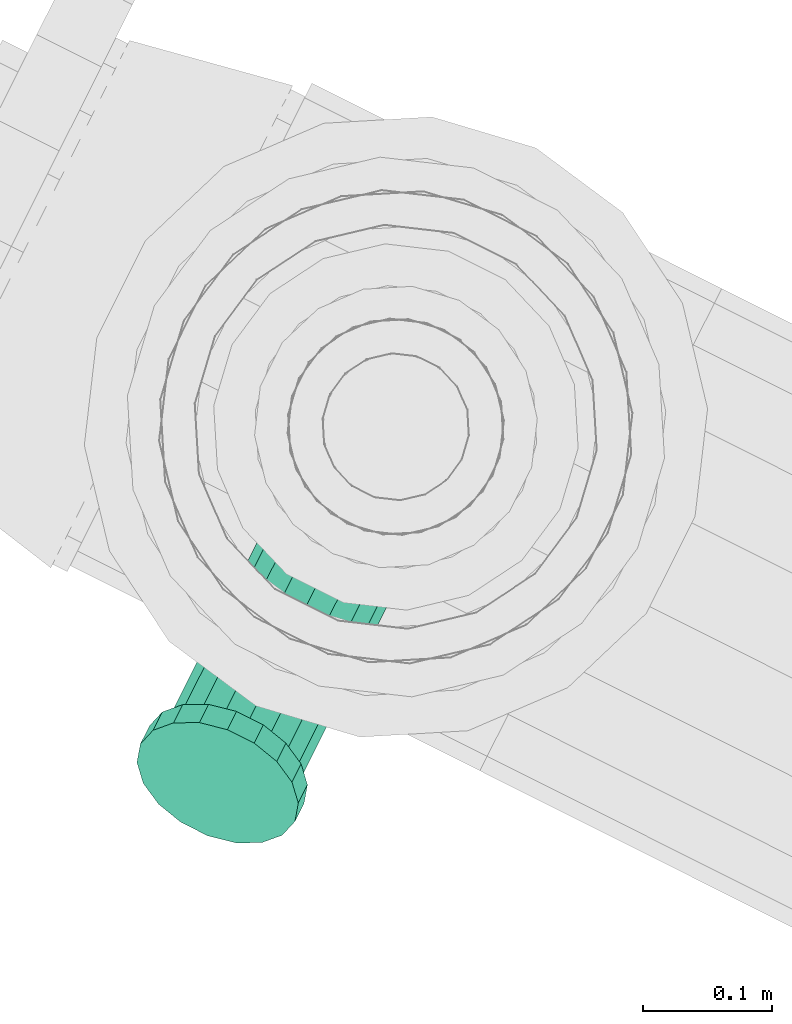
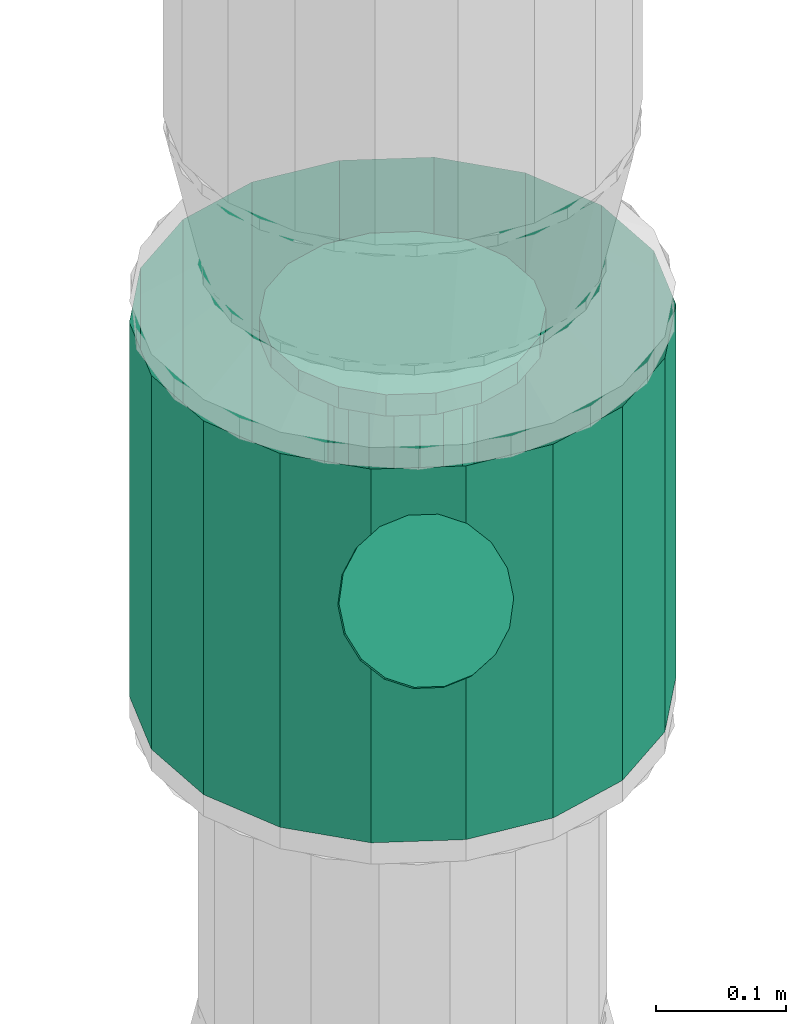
# One storey, part 70 of 152: 1 distribution control element.
"""IFC2X3 building model written with IfcOpenShell, lengths in metres."""

from ifc_helpers import new_model, si_unit, derived_unit, direction, frame, origin, place, context, subcontext, project, spatial, face_set, surface_model, source, transform, mapped, material, type_object, type_shapes, element, save


model = new_model("IFC2X3")

# Units and contexts
model_context = context("Model", 3, precision=5.2338327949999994e-05, world=origin(), true_north=direction((0.0, 1.0)))
body_context = subcontext(model_context, "Body", "Model", "MODEL_VIEW")
ifc_project = project(units=[si_unit("LENGTHUNIT", "METRE"), si_unit("AREAUNIT", "SQUARE_METRE"), si_unit("VOLUMEUNIT", "CUBIC_METRE"), si_unit("MASSUNIT", "GRAM", prefix="KILO"), si_unit("PLANEANGLEUNIT", "RADIAN"), derived_unit("THERMALTRANSMITTANCEUNIT", [(si_unit("MASSUNIT", "GRAM", prefix="KILO"), 1), (si_unit("THERMODYNAMICTEMPERATUREUNIT", "KELVIN"), -1), (si_unit("TIMEUNIT", "SECOND"), -3)])], contexts=[model_context])

# Site, building, storey
site_placement = place(None, frame((0.0, 0.0, 0.0), z_axis=(0.0, 0.0, 1.0), x_axis=(0.8939966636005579, -0.4480736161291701, 0.0)))
site = spatial("IfcSite", under=ifc_project, at=site_placement, Name="Default", CompositionType="ELEMENT")
building_placement = place(site_placement, origin())
building = spatial("IfcBuilding", under=site, at=building_placement, CompositionType="ELEMENT")
storey_placement = place(building_placement, frame((0.0, 0.0, 2.7499999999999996)))
storey = spatial("IfcBuildingStorey", under=building, at=storey_placement, Name="1. Obergeschoss", CompositionType="ELEMENT", Elevation=2.7499999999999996)

# Distribution control element
ifc_material = material(Name="IfcSurfaceStyle #1741")
distribution_element_type = type_object("IfcDistributionElementType", Name="Zählerpaßstück 319218:Zählerpaßstück 319218", material=ifc_material)
shared_shape = source(origin(), body_context, "Body", "SurfaceModel", [
    surface_model("IfcFaceBasedSurfaceModel", [(23.084853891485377, 8.402565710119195, 3.6892878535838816), (23.06530744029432, 8.40601227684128, 3.6822989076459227), (23.065307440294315, 8.199153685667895, 3.8410270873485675), (23.084853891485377, 8.201251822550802, 3.8437614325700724), (23.04811857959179, 8.415936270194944, 3.662175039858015), (23.04811857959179, 8.193112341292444, 3.8331538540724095), (23.035360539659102, 8.431140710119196, 3.631343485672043), (23.0353605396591, 8.18385646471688, 3.8210913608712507), (23.028572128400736, 8.449791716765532, 3.5935229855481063), (23.028572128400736, 8.172502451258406, 3.8062945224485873), (23.028572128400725, 8.449791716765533, 3.568505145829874), (23.028572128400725, 8.160419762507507, 3.79054805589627), (23.035360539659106, 8.431140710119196, 3.5593074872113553), (23.035360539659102, 8.149065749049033, 3.7757512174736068), (23.048118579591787, 8.415936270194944, 3.5518094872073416), (23.048118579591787, 8.139809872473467, 3.7636887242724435), (23.065307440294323, 8.406012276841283, 3.54691551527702), (23.06530744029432, 8.133768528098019, 3.7558154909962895), (23.084853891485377, 8.402565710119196, 3.5452158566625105), (23.084853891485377, 8.131670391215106, 3.753081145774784), (23.104400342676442, 8.406012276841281, 3.546915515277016), (23.104400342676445, 8.133768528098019, 3.7558154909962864), (23.12158920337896, 8.415936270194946, 3.5518094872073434), (23.121589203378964, 8.139809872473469, 3.7636887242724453), (23.134347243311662, 8.431140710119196, 3.5593074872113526), (23.13434724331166, 8.149065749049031, 3.775751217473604), (23.14113565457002, 8.449791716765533, 3.5685051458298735), (23.14113565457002, 8.160419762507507, 3.7905480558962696), (23.141135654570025, 8.449791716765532, 3.5935229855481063), (23.141135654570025, 8.172502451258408, 3.806294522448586), (23.134347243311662, 8.431140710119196, 3.6313434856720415), (23.13434724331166, 8.18385646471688, 3.82109136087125), (23.121589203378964, 8.415936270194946, 3.662175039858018), (23.121589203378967, 8.193112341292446, 3.8331538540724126), (23.104400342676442, 8.406012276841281, 3.682298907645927), (23.10440034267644, 8.199153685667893, 3.8410270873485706), (23.194853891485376, 8.459715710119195, 3.5138701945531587), (23.188220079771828, 8.49733792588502, 3.5138701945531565), (23.18822007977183, 8.49733792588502, 3.5338701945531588), (23.19485389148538, 8.459715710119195, 3.5338701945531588), (23.16911878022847, 8.530422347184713, 3.5138701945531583), (23.16911878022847, 8.530422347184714, 3.533870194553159), (23.139853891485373, 8.554978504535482, 3.513870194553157), (23.139853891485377, 8.554978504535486, 3.533870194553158), (23.10395519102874, 8.568044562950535, 3.513870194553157), (23.103955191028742, 8.568044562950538, 3.533870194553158), (23.06575259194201, 8.568044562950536, 3.5138701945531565), (23.06575259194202, 8.568044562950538, 3.5338701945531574), (23.029853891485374, 8.554978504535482, 3.513870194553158), (23.029853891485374, 8.554978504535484, 3.5338701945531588), (23.00058900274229, 8.530422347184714, 3.5138701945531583), (23.000589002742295, 8.530422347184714, 3.533870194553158), (22.981487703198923, 8.49733792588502, 3.513870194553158), (22.98148770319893, 8.497337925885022, 3.5338701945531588), (22.97485389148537, 8.459715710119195, 3.513870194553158), (22.974853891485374, 8.459715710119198, 3.5338701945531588), (22.98148770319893, 8.422093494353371, 3.513870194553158), (22.98148770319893, 8.422093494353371, 3.533870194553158), (23.00058900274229, 8.389009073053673, 3.513870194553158), (23.00058900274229, 8.389009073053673, 3.5338701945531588), (23.02985389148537, 8.364452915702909, 3.513870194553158), (23.02985389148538, 8.364452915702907, 3.5338701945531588), (23.065752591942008, 8.35138685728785, 3.5138701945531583), (23.06575259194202, 8.351386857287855, 3.533870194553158), (23.10395519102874, 8.351386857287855, 3.5138701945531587), (23.103955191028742, 8.351386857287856, 3.5338701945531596), (23.139853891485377, 8.36445291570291, 3.513870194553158), (23.139853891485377, 8.364452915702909, 3.5338701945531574), (23.169118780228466, 8.389009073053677, 3.513870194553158), (23.16911878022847, 8.389009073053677, 3.533870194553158), (23.188220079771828, 8.422093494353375, 3.513870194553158), (23.18822007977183, 8.422093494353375, 3.5338701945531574), (23.084853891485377, 8.459715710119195, 3.5138701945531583), (23.084853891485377, 8.459715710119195, 3.533870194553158), (23.14200389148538, 8.459715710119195, 3.5338701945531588), (23.13855732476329, 8.479262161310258, 3.5338701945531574), (23.13855732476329, 8.479262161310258, 3.8438701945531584), (23.14200389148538, 8.459715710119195, 3.8438701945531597), (23.128633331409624, 8.496451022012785, 3.5338701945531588), (23.128633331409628, 8.496451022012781, 3.8438701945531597), (23.11342889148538, 8.509209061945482, 3.5338701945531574), (23.113428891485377, 8.509209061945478, 3.843870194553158), (23.094777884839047, 8.515997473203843, 3.5338701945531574), (23.09477788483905, 8.515997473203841, 3.8438701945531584), (23.074929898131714, 8.515997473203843, 3.533870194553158), (23.074929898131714, 8.515997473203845, 3.8438701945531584), (23.05627889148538, 8.509209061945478, 3.533870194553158), (23.05627889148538, 8.509209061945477, 3.8438701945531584), (23.041074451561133, 8.496451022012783, 3.533870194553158), (23.041074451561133, 8.496451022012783, 3.843870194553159), (23.031150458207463, 8.479262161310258, 3.533870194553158), (23.03115045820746, 8.479262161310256, 3.843870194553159), (23.02770389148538, 8.459715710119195, 3.533870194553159), (23.027703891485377, 8.459715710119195, 3.843870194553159), (23.031150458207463, 8.440169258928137, 3.533870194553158), (23.03115045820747, 8.440169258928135, 3.843870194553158), (23.04107445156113, 8.422980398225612, 3.5338701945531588), (23.041074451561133, 8.422980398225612, 3.8438701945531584), (23.056278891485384, 8.410222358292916, 3.5338701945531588), (23.05627889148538, 8.410222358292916, 3.843870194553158), (23.074929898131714, 8.403433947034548, 3.5338701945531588), (23.074929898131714, 8.403433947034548, 3.8438701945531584), (23.094777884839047, 8.40343394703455, 3.5338701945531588), (23.094777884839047, 8.403433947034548, 3.8438701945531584), (23.113428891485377, 8.410222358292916, 3.5338701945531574), (23.113428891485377, 8.410222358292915, 3.8438701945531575), (23.128633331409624, 8.42298039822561, 3.533870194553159), (23.128633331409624, 8.42298039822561, 3.8438701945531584), (23.13855732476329, 8.440169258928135, 3.5338701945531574), (23.13855732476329, 8.440169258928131, 3.8438701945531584), (23.19485389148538, 8.459715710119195, 3.8438701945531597), (23.188220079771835, 8.497337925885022, 3.8438701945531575), (23.188220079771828, 8.49733792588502, 3.863870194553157), (23.194853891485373, 8.459715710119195, 3.863870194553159), (23.16911878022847, 8.530422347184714, 3.8438701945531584), (23.16911878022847, 8.530422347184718, 3.8638701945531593), (23.139853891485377, 8.554978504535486, 3.843870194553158), (23.139853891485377, 8.554978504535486, 3.863870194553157), (23.103955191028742, 8.568044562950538, 3.843870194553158), (23.103955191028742, 8.568044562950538, 3.863870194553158), (23.06575259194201, 8.568044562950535, 3.8438701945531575), (23.06575259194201, 8.568044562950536, 3.863870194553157), (23.029853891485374, 8.554978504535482, 3.8438701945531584), (23.029853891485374, 8.554978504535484, 3.8638701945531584), (23.00058900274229, 8.530422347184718, 3.8438701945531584), (23.000589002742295, 8.530422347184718, 3.8638701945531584), (22.98148770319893, 8.49733792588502, 3.8438701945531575), (22.98148770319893, 8.497337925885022, 3.863870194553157), (22.974853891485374, 8.459715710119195, 3.8438701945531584), (22.974853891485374, 8.459715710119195, 3.8638701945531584), (22.981487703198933, 8.422093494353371, 3.8438701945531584), (22.981487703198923, 8.422093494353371, 3.863870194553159), (23.00058900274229, 8.389009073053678, 3.8438701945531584), (23.00058900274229, 8.389009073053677, 3.8638701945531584), (23.02985389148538, 8.364452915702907, 3.8438701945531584), (23.029853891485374, 8.364452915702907, 3.8638701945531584), (23.06575259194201, 8.351386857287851, 3.843870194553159), (23.06575259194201, 8.351386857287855, 3.863870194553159), (23.103955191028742, 8.351386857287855, 3.8438701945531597), (23.103955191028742, 8.351386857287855, 3.8638701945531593), (23.139853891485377, 8.364452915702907, 3.8438701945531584), (23.13985389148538, 8.364452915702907, 3.8638701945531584), (23.169118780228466, 8.389009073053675, 3.8438701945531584), (23.16911878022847, 8.389009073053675, 3.863870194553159), (23.18822007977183, 8.422093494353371, 3.8438701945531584), (23.188220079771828, 8.422093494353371, 3.8638701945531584), (23.084853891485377, 8.459715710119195, 3.843870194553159), (23.084853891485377, 8.459715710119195, 3.863870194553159), (23.152003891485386, 8.166461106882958, 3.798421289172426), (23.147954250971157, 8.180442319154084, 3.8166419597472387), (23.147954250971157, 8.164575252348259, 3.8288171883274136), (23.152003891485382, 8.150594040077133, 3.810596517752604), (23.136293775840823, 8.192737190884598, 3.8326649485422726), (23.136293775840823, 8.176870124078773, 3.8448401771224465), (23.11842889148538, 8.201862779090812, 3.844557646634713), (23.118428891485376, 8.185995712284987, 3.8567328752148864), (23.096514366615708, 8.20671840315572, 3.850885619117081), (23.09651436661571, 8.190851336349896, 3.8630608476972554), (23.073193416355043, 8.206718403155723, 3.8508856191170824), (23.073193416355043, 8.190851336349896, 3.863060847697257), (23.05127889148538, 8.20186277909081, 3.8445576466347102), (23.051278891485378, 8.185995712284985, 3.8567328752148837), (23.033414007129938, 8.192737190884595, 3.8326649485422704), (23.033414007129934, 8.17687012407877, 3.8448401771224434), (23.021753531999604, 8.180442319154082, 3.8166419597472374), (23.021753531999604, 8.164575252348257, 3.8288171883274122), (23.017703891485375, 8.16646110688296, 3.798421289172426), (23.017703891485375, 8.15059404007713, 3.8105965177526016), (23.021753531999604, 8.15247989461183, 3.780200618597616), (23.021753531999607, 8.136612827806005, 3.79237584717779), (23.033414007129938, 8.140185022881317, 3.764177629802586), (23.033414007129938, 8.124317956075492, 3.7763528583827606), (23.05127889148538, 8.131059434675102, 3.752284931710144), (23.05127889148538, 8.115192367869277, 3.7644601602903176), (23.073193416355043, 8.12620381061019, 3.7459569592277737), (23.073193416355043, 8.110336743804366, 3.758132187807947), (23.09651436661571, 8.12620381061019, 3.745956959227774), (23.09651436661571, 8.110336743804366, 3.7581321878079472), (23.11842889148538, 8.131059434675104, 3.752284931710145), (23.11842889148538, 8.115192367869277, 3.7644601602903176), (23.136293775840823, 8.140185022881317, 3.7641776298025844), (23.136293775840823, 8.124317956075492, 3.776352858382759), (23.14795425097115, 8.152479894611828, 3.7802006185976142), (23.14795425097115, 8.136612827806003, 3.792375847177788), (23.084853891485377, 8.166461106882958, 3.798421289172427), (23.084853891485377, 8.150594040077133, 3.810596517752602), (23.29485389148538, 8.459715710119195, 3.5138701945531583), (23.282189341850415, 8.531539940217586, 3.5138701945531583), (23.282189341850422, 8.531539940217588, 3.863870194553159), (23.29485389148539, 8.459715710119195, 3.863870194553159), (23.245723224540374, 8.594701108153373, 3.5138701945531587), (23.245723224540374, 8.594701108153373, 3.8638701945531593), (23.189853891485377, 8.641581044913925, 3.513870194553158), (23.18985389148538, 8.641581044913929, 3.8638701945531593), (23.121320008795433, 8.66652533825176, 3.5138701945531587), (23.12132000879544, 8.66652533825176, 3.8638701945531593), (23.048387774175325, 8.666525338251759, 3.513870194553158), (23.048387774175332, 8.66652533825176, 3.8638701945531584), (22.979853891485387, 8.641581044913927, 3.5138701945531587), (22.97985389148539, 8.641581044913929, 3.863870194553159), (22.923984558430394, 8.594701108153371, 3.5138701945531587), (22.923984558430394, 8.594701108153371, 3.8638701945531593), (22.887518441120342, 8.531539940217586, 3.513870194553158), (22.887518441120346, 8.531539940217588, 3.8638701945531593), (22.874853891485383, 8.459715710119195, 3.513870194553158), (22.87485389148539, 8.459715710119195, 3.8638701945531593), (22.887518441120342, 8.387891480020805, 3.513870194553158), (22.887518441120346, 8.387891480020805, 3.8638701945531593), (22.923984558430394, 8.324730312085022, 3.5138701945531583), (22.923984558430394, 8.324730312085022, 3.863870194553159), (22.979853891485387, 8.277850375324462, 3.5138701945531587), (22.97985389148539, 8.27785037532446, 3.8638701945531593), (23.048387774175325, 8.252906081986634, 3.513870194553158), (23.048387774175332, 8.252906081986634, 3.863870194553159), (23.12132000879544, 8.252906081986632, 3.5138701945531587), (23.121320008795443, 8.252906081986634, 3.863870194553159), (23.189853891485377, 8.277850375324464, 3.5138701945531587), (23.18985389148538, 8.277850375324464, 3.863870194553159), (23.245723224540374, 8.324730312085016, 3.5138701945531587), (23.24572322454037, 8.32473031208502, 3.863870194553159), (23.28218934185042, 8.387891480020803, 3.5138701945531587), (23.282189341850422, 8.387891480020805, 3.8638701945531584)], [face_set([[[0, 1, 2, 3]], [[1, 4, 5, 2]], [[4, 6, 7, 5]], [[6, 8, 9, 7]], [[8, 10, 11, 9]], [[10, 12, 13, 11]], [[12, 14, 15, 13]], [[14, 16, 17, 15]], [[16, 18, 19, 17]], [[18, 20, 21, 19]], [[20, 22, 23, 21]], [[22, 24, 25, 23]], [[24, 26, 27, 25]], [[26, 28, 29, 27]], [[28, 30, 31, 29]], [[30, 32, 33, 31]], [[32, 34, 35, 33]], [[34, 0, 3, 35]], [[36, 37, 38, 39]], [[37, 40, 41, 38]], [[40, 42, 43, 41]], [[42, 44, 45, 43]], [[44, 46, 47, 45]], [[46, 48, 49, 47]], [[48, 50, 51, 49]], [[50, 52, 53, 51]], [[52, 54, 55, 53]], [[54, 56, 57, 55]], [[56, 58, 59, 57]], [[58, 60, 61, 59]], [[60, 62, 63, 61]], [[62, 64, 65, 63]], [[64, 66, 67, 65]], [[66, 68, 69, 67]], [[68, 70, 71, 69]], [[70, 36, 39, 71]], [[72, 37, 36]], [[72, 40, 37]], [[72, 42, 40]], [[72, 44, 42]], [[72, 46, 44]], [[72, 48, 46]], [[72, 50, 48]], [[72, 52, 50]], [[72, 54, 52]], [[72, 56, 54]], [[72, 58, 56]], [[72, 60, 58]], [[72, 62, 60]], [[72, 64, 62]], [[72, 66, 64]], [[72, 68, 66]], [[72, 70, 68]], [[72, 36, 70]], [[73, 71, 39]], [[73, 69, 71]], [[73, 67, 69]], [[73, 65, 67]], [[73, 63, 65]], [[73, 61, 63]], [[73, 59, 61]], [[73, 57, 59]], [[73, 55, 57]], [[73, 53, 55]], [[73, 51, 53]], [[73, 49, 51]], [[73, 47, 49]], [[73, 45, 47]], [[73, 43, 45]], [[73, 41, 43]], [[73, 38, 41]], [[73, 39, 38]], [[74, 75, 76, 77]], [[75, 78, 79, 76]], [[78, 80, 81, 79]], [[80, 82, 83, 81]], [[82, 84, 85, 83]], [[84, 86, 87, 85]], [[86, 88, 89, 87]], [[88, 90, 91, 89]], [[90, 92, 93, 91]], [[92, 94, 95, 93]], [[94, 96, 97, 95]], [[96, 98, 99, 97]], [[98, 100, 101, 99]], [[100, 102, 103, 101]], [[102, 104, 105, 103]], [[104, 106, 107, 105]], [[106, 108, 109, 107]], [[108, 74, 77, 109]], [[110, 111, 112, 113]], [[111, 114, 115, 112]], [[114, 116, 117, 115]], [[116, 118, 119, 117]], [[118, 120, 121, 119]], [[120, 122, 123, 121]], [[122, 124, 125, 123]], [[124, 126, 127, 125]], [[126, 128, 129, 127]], [[128, 130, 131, 129]], [[130, 132, 133, 131]], [[132, 134, 135, 133]], [[134, 136, 137, 135]], [[136, 138, 139, 137]], [[138, 140, 141, 139]], [[140, 142, 143, 141]], [[142, 144, 145, 143]], [[144, 110, 113, 145]], [[146, 111, 110]], [[146, 114, 111]], [[146, 116, 114]], [[146, 118, 116]], [[146, 120, 118]], [[146, 122, 120]], [[146, 124, 122]], [[146, 126, 124]], [[146, 128, 126]], [[146, 130, 128]], [[146, 132, 130]], [[146, 134, 132]], [[146, 136, 134]], [[146, 138, 136]], [[146, 140, 138]], [[146, 142, 140]], [[146, 144, 142]], [[146, 110, 144]], [[147, 145, 113]], [[147, 143, 145]], [[147, 141, 143]], [[147, 139, 141]], [[147, 137, 139]], [[147, 135, 137]], [[147, 133, 135]], [[147, 131, 133]], [[147, 129, 131]], [[147, 127, 129]], [[147, 125, 127]], [[147, 123, 125]], [[147, 121, 123]], [[147, 119, 121]], [[147, 117, 119]], [[147, 115, 117]], [[147, 112, 115]], [[147, 113, 112]], [[148, 149, 150, 151]], [[149, 152, 153, 150]], [[152, 154, 155, 153]], [[154, 156, 157, 155]], [[156, 158, 159, 157]], [[158, 160, 161, 159]], [[160, 162, 163, 161]], [[162, 164, 165, 163]], [[164, 166, 167, 165]], [[166, 168, 169, 167]], [[168, 170, 171, 169]], [[170, 172, 173, 171]], [[172, 174, 175, 173]], [[174, 176, 177, 175]], [[176, 178, 179, 177]], [[178, 180, 181, 179]], [[180, 182, 183, 181]], [[182, 148, 151, 183]], [[184, 149, 148]], [[184, 152, 149]], [[184, 154, 152]], [[184, 156, 154]], [[184, 158, 156]], [[184, 160, 158]], [[184, 162, 160]], [[184, 164, 162]], [[184, 166, 164]], [[184, 168, 166]], [[184, 170, 168]], [[184, 172, 170]], [[184, 174, 172]], [[184, 176, 174]], [[184, 178, 176]], [[184, 180, 178]], [[184, 182, 180]], [[184, 148, 182]], [[185, 183, 151]], [[185, 181, 183]], [[185, 179, 181]], [[185, 177, 179]], [[185, 175, 177]], [[185, 173, 175]], [[185, 171, 173]], [[185, 169, 171]], [[185, 167, 169]], [[185, 165, 167]], [[185, 163, 165]], [[185, 161, 163]], [[185, 159, 161]], [[185, 157, 159]], [[185, 155, 157]], [[185, 153, 155]], [[185, 150, 153]], [[185, 151, 150]], [[186, 187, 188, 189]], [[187, 190, 191, 188]], [[190, 192, 193, 191]], [[192, 194, 195, 193]], [[194, 196, 197, 195]], [[196, 198, 199, 197]], [[198, 200, 201, 199]], [[200, 202, 203, 201]], [[202, 204, 205, 203]], [[204, 206, 207, 205]], [[206, 208, 209, 207]], [[208, 210, 211, 209]], [[210, 212, 213, 211]], [[212, 214, 215, 213]], [[214, 216, 217, 215]], [[216, 218, 219, 217]], [[218, 220, 221, 219]], [[220, 186, 189, 221]]])]),
])
type_shapes(distribution_element_type, [shared_shape])
distribution_control_element_placement = place(storey_placement, frame((0.0, 0.0, -2.7499999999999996)))
element("IfcDistributionControlElement", 1, at=distribution_control_element_placement, inside=storey, type_object=distribution_element_type, material=ifc_material, Name="Zählerpaßstück", ObjectType="Zählerpaßstück", context=body_context, shape_type="MappedRepresentation", body=[
    mapped(shared_shape, transform((0.0, 0.0, 0.0), scale=1.0)),
])

save(model, "model.ifc")
